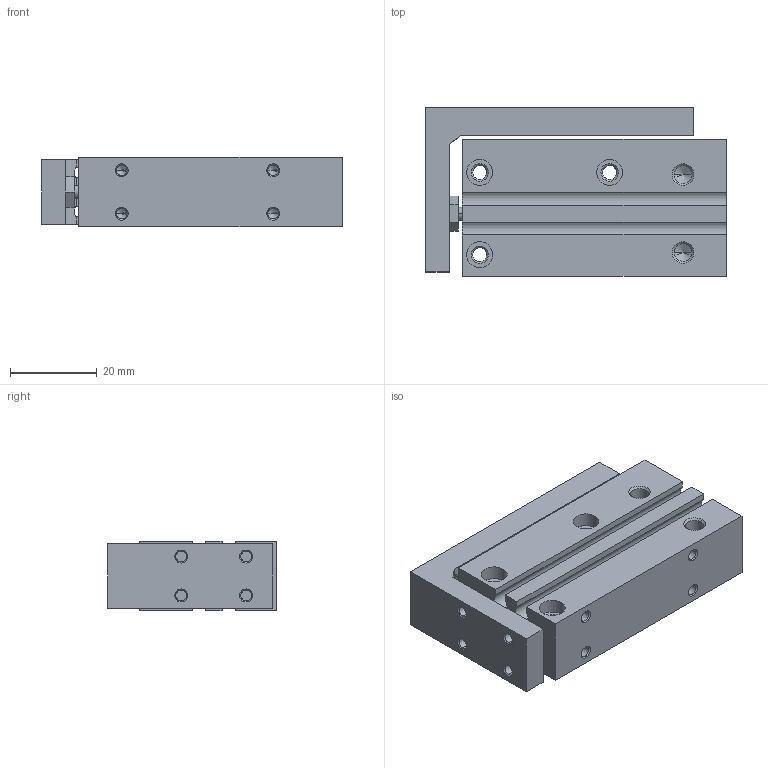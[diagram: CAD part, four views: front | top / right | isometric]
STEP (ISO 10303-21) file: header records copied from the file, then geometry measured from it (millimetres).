
FILE_DESCRIPTION (( 'STEP AP203' ), '1' );
FILE_NAME ('CXH6-30.STEP', '2020-04-16T18:03:06', ( '' ), ( '' ), 'SwSTEP 2.0', 'SolidWorks 2019', '' );
FILE_SCHEMA (( 'CONFIG_CONTROL_DESIGN' ));
Length unit declared in the file: millimetre
Products named in the file (1): CXH6-30
Bounding box: 69.5 x 39 x 16 mm (x, y, z)
Volume: 33226.2 mm3; surface area: 16400.3 mm2
Topology: 2 solids, 2 shells, 208 faces, 495 edges, 286 vertices
Faces by surface type: cone 88, cylinder 76, plane 44
Entity records: 6004 total; most frequent: DIRECTION 1093, CARTESIAN_POINT 1080, ORIENTED_EDGE 934, EDGE_CURVE 467, AXIS2_PLACEMENT_3D 421, VERTEX_POINT 286, EDGE_LOOP 253, VECTOR 251
